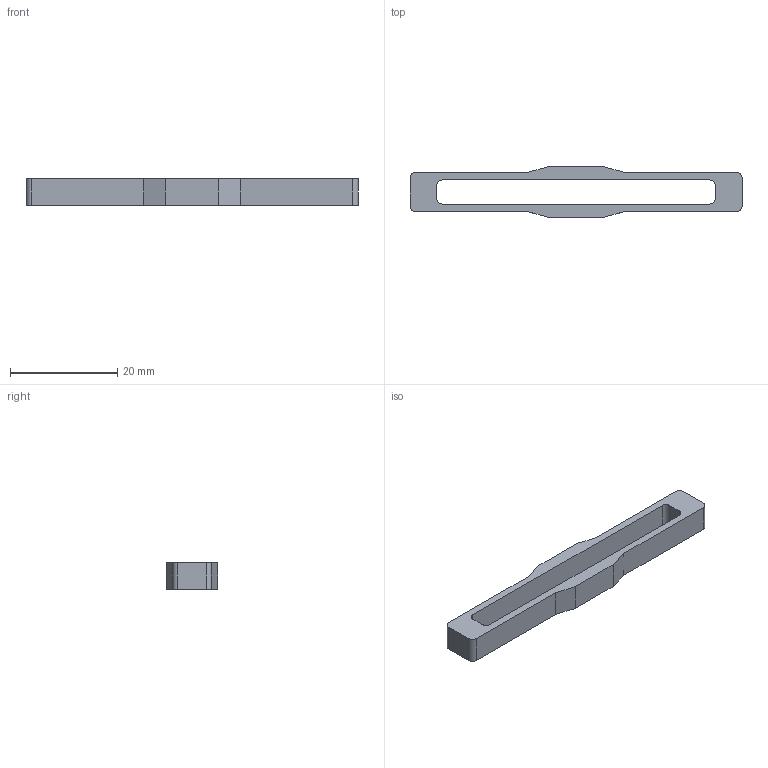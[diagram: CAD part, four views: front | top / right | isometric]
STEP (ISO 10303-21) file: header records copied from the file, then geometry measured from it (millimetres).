
FILE_DESCRIPTION(('Open CASCADE Model'),'2;1');
FILE_NAME('Open CASCADE Shape Model','2026-11-28T16:01:12',('Author'),( 'Open CASCADE'),'Open CASCADE STEP processor 8.0','build123d', 'Unknown');
FILE_SCHEMA(('AUTOMOTIVE_DESIGN { 1 0 10303 214 1 1 1 1 }'));
Length unit declared in the file: millimetre
Products named in the file (2): =>[0:1:1:2]; SOLID
Assembly tree (1 placements, depth 2):
  =>[0:1:1:2]
    SOLID
Bounding box: 62 x 9.6 x 5 mm (x, y, z)
Volume: 1254 mm3; surface area: 1745.7 mm2
Topology: 1 solids, 1 shells, 26 faces, 72 edges, 48 vertices
Faces by surface type: plane 18, cylinder 8
Entity records: 1818 total; most frequent: CARTESIAN_POINT 328, DIRECTION 282, LINE 184, VECTOR 184, ORIENTED_EDGE 144, PCURVE 144, DEFINITIONAL_REPRESENTATION 144, EDGE_CURVE 72
